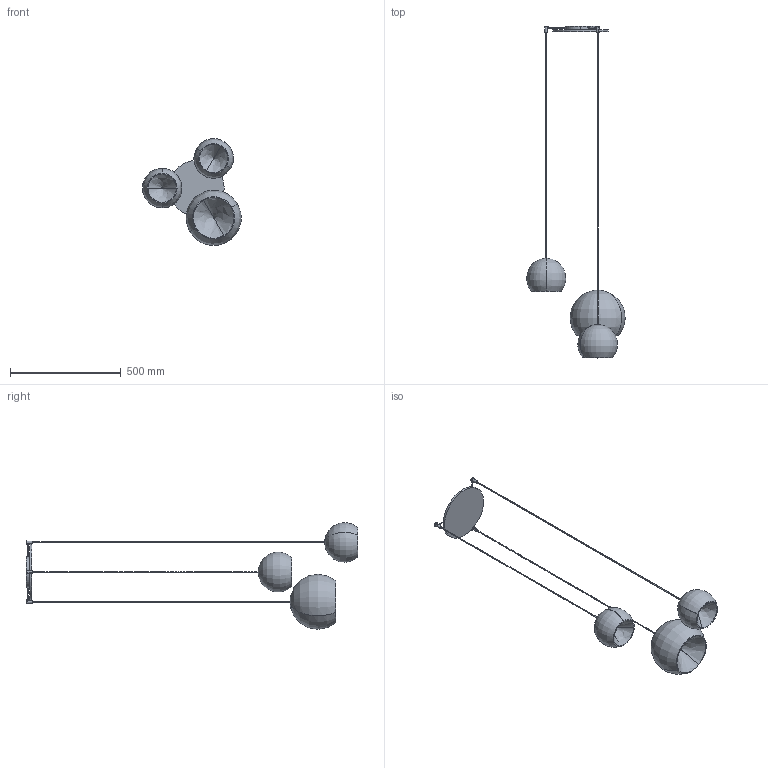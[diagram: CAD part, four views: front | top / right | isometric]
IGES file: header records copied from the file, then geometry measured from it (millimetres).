
Start section: SolidWorks IGES file using analytic representation for surfaces
Global section: file name: Y:\eforma\TECNICO\SOLIDWORKS\E-FORMA\09-LAMPADE\CHERRY MIX\02 parts\CRM03-00-CHERRY MIX_3 SOSPENSIONE.IGS; native system: SolidWorks 2022; preprocessor: SolidWorks 2022; author: eforma.tech; date: 250506.093328; units: millimetre
Bounding box: 445.85 x 1500 x 482.01 mm (x, y, z)
Volume: 1485672.8 mm3; surface area: 988063.4 mm2
Topology: 16 solids, 16 shells, 118 faces, 248 edges, 157 vertices
Faces by surface type: revolution 81, plane 37
